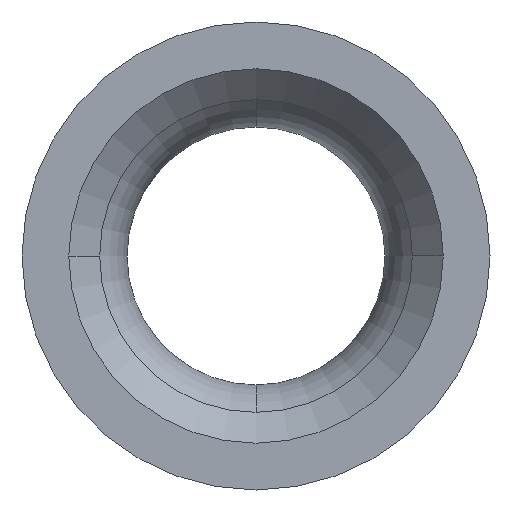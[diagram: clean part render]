
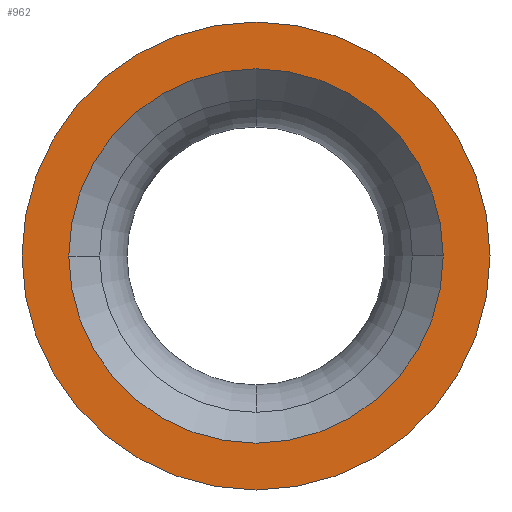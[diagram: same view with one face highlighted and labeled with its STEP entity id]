
A CAD part, left-side view. The second image highlights one B-rep face of the part: STEP entity #962.
In plain terms, the highlighted planar face has unit normal (-1, 0, 0).
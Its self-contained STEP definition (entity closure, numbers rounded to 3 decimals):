
#317=CARTESIAN_POINT('',(0.,5.0,0.0));
#318=VERTEX_POINT('',#317);
#327=CARTESIAN_POINT('',(0.,-5.0,0.));
#328=VERTEX_POINT('',#327);
#329=CARTESIAN_POINT('',(0.,0.0,0.0));
#330=DIRECTION('',(1.0,0.0,0.0));
#331=DIRECTION('',(0.0,1.0,0.0));
#332=AXIS2_PLACEMENT_3D('',#329,#330,#331);
#333=CIRCLE('',#332,5.0);
#334=EDGE_CURVE('',#318,#328,#333,.T.);
#368=CARTESIAN_POINT('',(0.,4.0,0.0));
#369=VERTEX_POINT('',#368);
#378=CARTESIAN_POINT('',(0.,-4.0,0.));
#379=VERTEX_POINT('',#378);
#380=CARTESIAN_POINT('',(0.,0.0,0.0));
#381=DIRECTION('',(1.0,0.0,0.0));
#382=DIRECTION('',(0.0,1.0,0.0));
#383=AXIS2_PLACEMENT_3D('',#380,#381,#382);
#384=CIRCLE('',#383,4.0);
#385=EDGE_CURVE('',#379,#369,#384,.T.);
#933=CARTESIAN_POINT('',(0.,0.0,0.0));
#934=DIRECTION('',(1.0,0.0,0.0));
#935=DIRECTION('',(0.0,1.0,0.0));
#936=AXIS2_PLACEMENT_3D('',#933,#934,#935);
#937=CIRCLE('',#936,4.0);
#938=EDGE_CURVE('',#369,#379,#937,.T.);
#943=CARTESIAN_POINT('',(0.,4.5,0.0));
#944=DIRECTION('',(-1.0,0.0,0.0));
#945=DIRECTION('',(0.0,0.0,1.0));
#946=AXIS2_PLACEMENT_3D('',#943,#944,#945);
#947=PLANE('',#946);
#948=ORIENTED_EDGE('',*,*,#334,.F.);
#949=CARTESIAN_POINT('',(0.,0.0,0.0));
#950=DIRECTION('',(1.0,0.0,0.0));
#951=DIRECTION('',(0.0,1.0,0.0));
#952=AXIS2_PLACEMENT_3D('',#949,#950,#951);
#953=CIRCLE('',#952,5.0);
#954=EDGE_CURVE('',#328,#318,#953,.T.);
#955=ORIENTED_EDGE('',*,*,#954,.F.);
#956=EDGE_LOOP('',(#948,#955));
#957=FACE_OUTER_BOUND('',#956,.T.);
#958=ORIENTED_EDGE('',*,*,#938,.T.);
#959=ORIENTED_EDGE('',*,*,#385,.T.);
#960=EDGE_LOOP('',(#958,#959));
#961=FACE_BOUND('',#960,.T.);
#962=ADVANCED_FACE('',(#957,#961),#947,.T.);
